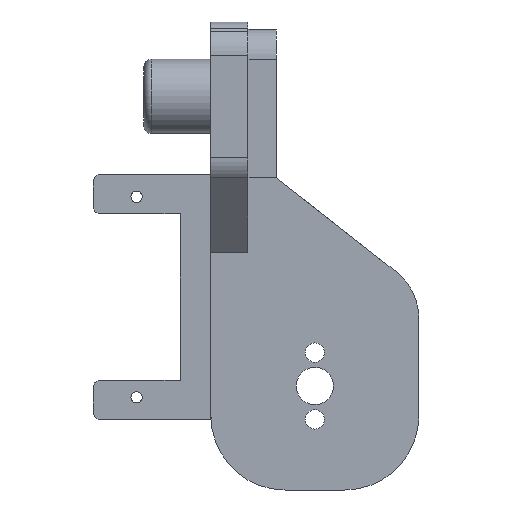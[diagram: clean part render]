
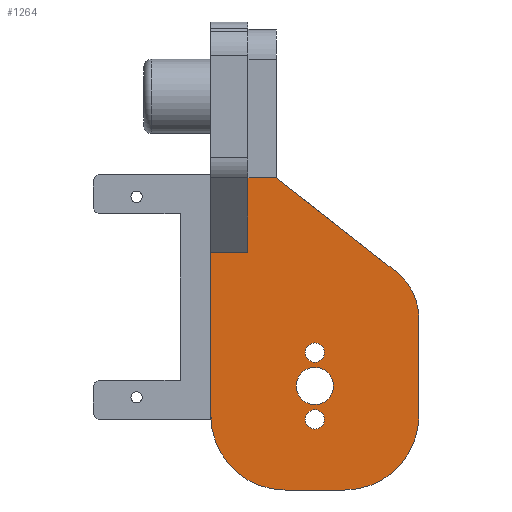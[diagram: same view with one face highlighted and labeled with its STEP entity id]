
A CAD part, left-side view. The second image highlights one B-rep face of the part: STEP entity #1264.
In plain terms, the highlighted planar face has unit normal (-1, 0, 0).
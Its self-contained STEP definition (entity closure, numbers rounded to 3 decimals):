
#35 = CARTESIAN_POINT ( 'NONE',  ( 12.198, 5., -40. ) ) ;
#49 = CARTESIAN_POINT ( 'NONE',  ( 12.198, -10.3, -67.5 ) ) ;
#78 = VERTEX_POINT ( 'NONE', #2442 ) ;
#83 = CARTESIAN_POINT ( 'NONE',  ( 12.198, -3.82, -35. ) ) ;
#95 = EDGE_CURVE ( 'NONE', #1530, #2596, #539, .T. ) ;
#114 = AXIS2_PLACEMENT_3D ( 'NONE', #1553, #480, #890 ) ;
#122 = EDGE_CURVE ( 'NONE', #1038, #1177, #1097, .T. ) ;
#141 = CARTESIAN_POINT ( 'NONE',  ( 12.198, -19.928, -47.598 ) ) ;
#178 = ORIENTED_EDGE ( 'NONE', *, *, #2466, .F. ) ;
#186 = VECTOR ( 'NONE', #1445, 1000. ) ;
#187 = CARTESIAN_POINT ( 'NONE',  ( 12.198, 5., -40. ) ) ;
#204 = CARTESIAN_POINT ( 'NONE',  ( 12.198, -7.7, -58.5 ) ) ;
#205 = AXIS2_PLACEMENT_3D ( 'NONE', #1266, #1499, #2329 ) ;
#212 = DIRECTION ( 'NONE',  ( 0., 0., -1. ) ) ;
#217 = CARTESIAN_POINT ( 'NONE',  ( 12.198, -15., -53.899 ) ) ;
#221 = CARTESIAN_POINT ( 'NONE',  ( 12.198, -9., -67.5 ) ) ;
#236 = DIRECTION ( 'NONE',  ( 1., 0., 0. ) ) ;
#273 = CARTESIAN_POINT ( 'NONE',  ( 12.198, -13., -67. ) ) ;
#294 = AXIS2_PLACEMENT_3D ( 'NONE', #507, #734, #1802 ) ;
#313 = EDGE_CURVE ( 'NONE', #1530, #1822, #1473, .T. ) ;
#314 = CARTESIAN_POINT ( 'NONE',  ( 12.198, -23., -40. ) ) ;
#320 = VERTEX_POINT ( 'NONE', #204 ) ;
#350 = VERTEX_POINT ( 'NONE', #1108 ) ;
#369 = CARTESIAN_POINT ( 'NONE',  ( 12.198, 5., -45. ) ) ;
#428 = CIRCLE ( 'NONE', #2617, 8. ) ;
#443 = ORIENTED_EDGE ( 'NONE', *, *, #603, .T. ) ;
#450 = FACE_OUTER_BOUND ( 'NONE', #1351, .T. ) ;
#466 = VECTOR ( 'NONE', #882, 1000. ) ;
#480 = DIRECTION ( 'NONE',  ( -1., 0., 0. ) ) ;
#499 = ORIENTED_EDGE ( 'NONE', *, *, #1915, .T. ) ;
#507 = CARTESIAN_POINT ( 'NONE',  ( 12.198, -5., -67. ) ) ;
#517 = DIRECTION ( 'NONE',  ( 0., 1., 0. ) ) ;
#539 = LINE ( 'NONE', #1387, #2333 ) ;
#598 = CARTESIAN_POINT ( 'NONE',  ( 12.198, -11.5, -63. ) ) ;
#601 = CARTESIAN_POINT ( 'NONE',  ( 12.198, 5., -77. ) ) ;
#603 = EDGE_CURVE ( 'NONE', #2178, #1995, #2491, .T. ) ;
#644 = CARTESIAN_POINT ( 'NONE',  ( 12.198, -9., -58.5 ) ) ;
#648 = CIRCLE ( 'NONE', #114, 1.3 ) ;
#668 = ORIENTED_EDGE ( 'NONE', *, *, #1527, .F. ) ;
#684 = CARTESIAN_POINT ( 'NONE',  ( 12.198, -10.3, -58.5 ) ) ;
#685 = ORIENTED_EDGE ( 'NONE', *, *, #2597, .T. ) ;
#734 = DIRECTION ( 'NONE',  ( -1., 0., 0. ) ) ;
#740 = VECTOR ( 'NONE', #212, 1000. ) ;
#793 = DIRECTION ( 'NONE',  ( 0., 1., 0. ) ) ;
#842 = ORIENTED_EDGE ( 'NONE', *, *, #313, .T. ) ;
#853 = DIRECTION ( 'NONE',  ( -1., 0., 0. ) ) ;
#882 = DIRECTION ( 'NONE',  ( 0., 0., -1. ) ) ;
#889 = DIRECTION ( 'NONE',  ( 0., 1., 0. ) ) ;
#890 = DIRECTION ( 'NONE',  ( 0., -1., 0. ) ) ;
#909 = VERTEX_POINT ( 'NONE', #49 ) ;
#940 = ORIENTED_EDGE ( 'NONE', *, *, #2316, .T. ) ;
#961 = LINE ( 'NONE', #314, #2066 ) ;
#998 = ORIENTED_EDGE ( 'NONE', *, *, #1903, .T. ) ;
#1038 = VERTEX_POINT ( 'NONE', #598 ) ;
#1057 = CARTESIAN_POINT ( 'NONE',  ( 12.198, 0., -45. ) ) ;
#1068 = ORIENTED_EDGE ( 'NONE', *, *, #1246, .T. ) ;
#1097 = CIRCLE ( 'NONE', #1232, 2.5 ) ;
#1098 = FACE_BOUND ( 'NONE', #1275, .T. ) ;
#1108 = CARTESIAN_POINT ( 'NONE',  ( 12.198, 0., -35. ) ) ;
#1122 = EDGE_CURVE ( 'NONE', #2186, #909, #2423, .T. ) ;
#1131 = DIRECTION ( 'NONE',  ( -1., 0., 0. ) ) ;
#1177 = VERTEX_POINT ( 'NONE', #1709 ) ;
#1181 = LINE ( 'NONE', #2702, #2378 ) ;
#1232 = AXIS2_PLACEMENT_3D ( 'NONE', #1829, #2086, #793 ) ;
#1235 = CARTESIAN_POINT ( 'NONE',  ( 12.198, -13., -77. ) ) ;
#1246 = EDGE_CURVE ( 'NONE', #350, #2596, #1280, .T. ) ;
#1264 = ADVANCED_FACE ( 'NONE', ( #1098, #1508, #2353, #450 ), #1303, .F. ) ;
#1266 = CARTESIAN_POINT ( 'NONE',  ( 12.198, -9., -63. ) ) ;
#1275 = EDGE_LOOP ( 'NONE', ( #1411, #1999 ) ) ;
#1277 = AXIS2_PLACEMENT_3D ( 'NONE', #644, #2130, #1490 ) ;
#1280 = LINE ( 'NONE', #2124, #740 ) ;
#1300 = CARTESIAN_POINT ( 'NONE',  ( 12.198, 5., -67. ) ) ;
#1303 = PLANE ( 'NONE',  #2660 ) ;
#1323 = AXIS2_PLACEMENT_3D ( 'NONE', #273, #1131, #517 ) ;
#1344 = EDGE_CURVE ( 'NONE', #320, #1794, #648, .T. ) ;
#1351 = EDGE_LOOP ( 'NONE', ( #668, #1636, #178, #998, #1068, #2584, #842, #499, #443, #940 ) ) ;
#1387 = CARTESIAN_POINT ( 'NONE',  ( 12.198, 5., -45. ) ) ;
#1411 = ORIENTED_EDGE ( 'NONE', *, *, #2175, .F. ) ;
#1416 = VECTOR ( 'NONE', #2265, 1000. ) ;
#1423 = LINE ( 'NONE', #1628, #1416 ) ;
#1432 = CARTESIAN_POINT ( 'NONE',  ( 12.198, -9., -67.5 ) ) ;
#1445 = DIRECTION ( 'NONE',  ( 0., -1., 0. ) ) ;
#1453 = CIRCLE ( 'NONE', #1277, 1.3 ) ;
#1473 = LINE ( 'NONE', #187, #466 ) ;
#1490 = DIRECTION ( 'NONE',  ( 0., -1., 0. ) ) ;
#1499 = DIRECTION ( 'NONE',  ( 1., 0., 0. ) ) ;
#1508 = FACE_BOUND ( 'NONE', #2298, .T. ) ;
#1527 = EDGE_CURVE ( 'NONE', #78, #2671, #961, .T. ) ;
#1530 = VERTEX_POINT ( 'NONE', #369 ) ;
#1544 = CIRCLE ( 'NONE', #2755, 1.3 ) ;
#1553 = CARTESIAN_POINT ( 'NONE',  ( 12.198, -9., -58.5 ) ) ;
#1575 = DIRECTION ( 'NONE',  ( 0., -1., 0. ) ) ;
#1628 = CARTESIAN_POINT ( 'NONE',  ( 12.198, -23., -50. ) ) ;
#1636 = ORIENTED_EDGE ( 'NONE', *, *, #2150, .T. ) ;
#1709 = CARTESIAN_POINT ( 'NONE',  ( 12.198, -6.5, -63. ) ) ;
#1769 = DIRECTION ( 'NONE',  ( 0., 1., 0. ) ) ;
#1794 = VERTEX_POINT ( 'NONE', #684 ) ;
#1802 = DIRECTION ( 'NONE',  ( 0., 1., 0. ) ) ;
#1822 = VERTEX_POINT ( 'NONE', #1300 ) ;
#1829 = CARTESIAN_POINT ( 'NONE',  ( 12.198, -9., -63. ) ) ;
#1881 = VERTEX_POINT ( 'NONE', #141 ) ;
#1884 = DIRECTION ( 'NONE',  ( -1., 0., 0. ) ) ;
#1895 = CIRCLE ( 'NONE', #294, 10. ) ;
#1899 = ORIENTED_EDGE ( 'NONE', *, *, #1122, .F. ) ;
#1903 = EDGE_CURVE ( 'NONE', #2132, #350, #1181, .T. ) ;
#1915 = EDGE_CURVE ( 'NONE', #1822, #2178, #1895, .T. ) ;
#1995 = VERTEX_POINT ( 'NONE', #1235 ) ;
#1999 = ORIENTED_EDGE ( 'NONE', *, *, #1344, .F. ) ;
#2066 = VECTOR ( 'NONE', #2446, 1000. ) ;
#2074 = CIRCLE ( 'NONE', #1323, 10. ) ;
#2086 = DIRECTION ( 'NONE',  ( 1., 0., 0. ) ) ;
#2124 = CARTESIAN_POINT ( 'NONE',  ( 12.198, 0., 0. ) ) ;
#2130 = DIRECTION ( 'NONE',  ( -1., 0., 0. ) ) ;
#2132 = VERTEX_POINT ( 'NONE', #83 ) ;
#2136 = ORIENTED_EDGE ( 'NONE', *, *, #122, .T. ) ;
#2150 = EDGE_CURVE ( 'NONE', #78, #1881, #428, .T. ) ;
#2163 = EDGE_LOOP ( 'NONE', ( #685, #2136 ) ) ;
#2175 = EDGE_CURVE ( 'NONE', #1794, #320, #1453, .T. ) ;
#2178 = VERTEX_POINT ( 'NONE', #2181 ) ;
#2181 = CARTESIAN_POINT ( 'NONE',  ( 12.198, -5., -77. ) ) ;
#2186 = VERTEX_POINT ( 'NONE', #2390 ) ;
#2265 = DIRECTION ( 'NONE',  ( 0., -0.788, -0.616 ) ) ;
#2276 = DIRECTION ( 'NONE',  ( 0., -1., 0. ) ) ;
#2285 = AXIS2_PLACEMENT_3D ( 'NONE', #221, #1884, #2513 ) ;
#2298 = EDGE_LOOP ( 'NONE', ( #2571, #1899 ) ) ;
#2316 = EDGE_CURVE ( 'NONE', #1995, #2671, #2074, .T. ) ;
#2329 = DIRECTION ( 'NONE',  ( 0., 1., 0. ) ) ;
#2333 = VECTOR ( 'NONE', #1575, 1000. ) ;
#2353 = FACE_BOUND ( 'NONE', #2163, .T. ) ;
#2378 = VECTOR ( 'NONE', #2427, 1000. ) ;
#2390 = CARTESIAN_POINT ( 'NONE',  ( 12.198, -7.7, -67.5 ) ) ;
#2423 = CIRCLE ( 'NONE', #2285, 1.3 ) ;
#2427 = DIRECTION ( 'NONE',  ( 0., 1., 0. ) ) ;
#2436 = CIRCLE ( 'NONE', #205, 2.5 ) ;
#2442 = CARTESIAN_POINT ( 'NONE',  ( 12.198, -23., -53.899 ) ) ;
#2446 = DIRECTION ( 'NONE',  ( 0., 0., -1. ) ) ;
#2466 = EDGE_CURVE ( 'NONE', #2132, #1881, #1423, .T. ) ;
#2482 = EDGE_CURVE ( 'NONE', #909, #2186, #1544, .T. ) ;
#2491 = LINE ( 'NONE', #601, #186 ) ;
#2513 = DIRECTION ( 'NONE',  ( 0., -1., 0. ) ) ;
#2571 = ORIENTED_EDGE ( 'NONE', *, *, #2482, .F. ) ;
#2584 = ORIENTED_EDGE ( 'NONE', *, *, #95, .F. ) ;
#2593 = CARTESIAN_POINT ( 'NONE',  ( 12.198, -23., -67. ) ) ;
#2596 = VERTEX_POINT ( 'NONE', #1057 ) ;
#2597 = EDGE_CURVE ( 'NONE', #1177, #1038, #2436, .T. ) ;
#2617 = AXIS2_PLACEMENT_3D ( 'NONE', #217, #853, #1769 ) ;
#2660 = AXIS2_PLACEMENT_3D ( 'NONE', #35, #236, #889 ) ;
#2671 = VERTEX_POINT ( 'NONE', #2593 ) ;
#2702 = CARTESIAN_POINT ( 'NONE',  ( 12.198, -3.82, -35. ) ) ;
#2710 = DIRECTION ( 'NONE',  ( -1., 0., 0. ) ) ;
#2755 = AXIS2_PLACEMENT_3D ( 'NONE', #1432, #2710, #2276 ) ;
